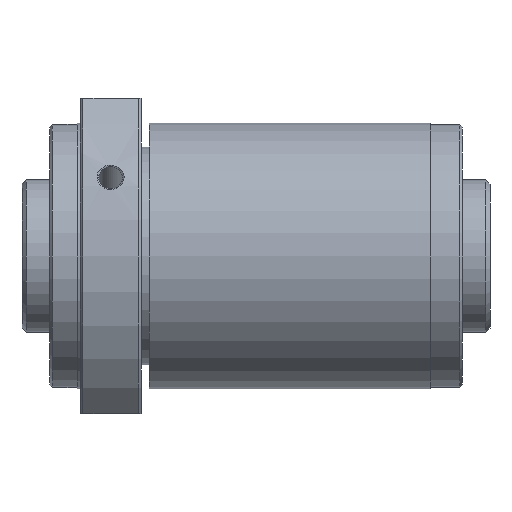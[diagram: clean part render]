
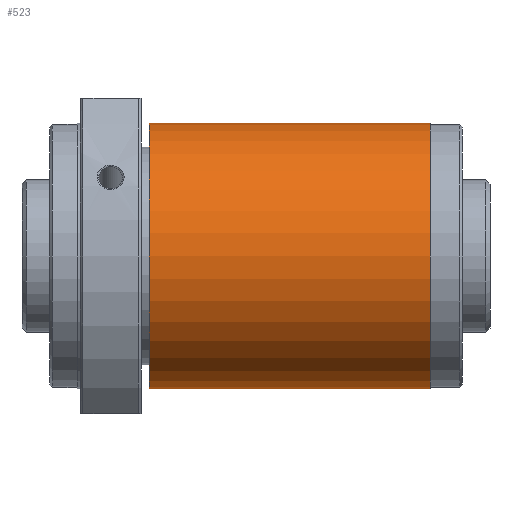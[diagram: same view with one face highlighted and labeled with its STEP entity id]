
A CAD part, front view. The second image highlights one B-rep face of the part: STEP entity #523.
In plain terms, the highlighted cylindrical face has radius 48 mm (diameter 96 mm), a full revolution.
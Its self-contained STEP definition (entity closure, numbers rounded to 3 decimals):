
#61=CYLINDRICAL_SURFACE('',#605,48.);
#121=ORIENTED_EDGE('',*,*,#223,.T.);
#122=ORIENTED_EDGE('',*,*,#222,.F.);
#222=EDGE_CURVE('',#277,#277,#320,.T.);
#223=EDGE_CURVE('',#278,#278,#321,.T.);
#277=VERTEX_POINT('',#910);
#278=VERTEX_POINT('',#913);
#320=CIRCLE('',#604,48.);
#321=CIRCLE('',#606,48.);
#370=EDGE_LOOP('',(#121));
#371=EDGE_LOOP('',(#122));
#446=FACE_BOUND('',#370,.T.);
#447=FACE_BOUND('',#371,.T.);
#523=ADVANCED_FACE('',(#446,#447),#61,.T.);
#604=AXIS2_PLACEMENT_3D('',#909,#723,#724);
#605=AXIS2_PLACEMENT_3D('',#911,#725,#726);
#606=AXIS2_PLACEMENT_3D('',#912,#727,#728);
#723=DIRECTION('',(1.,0.,0.));
#724=DIRECTION('',(0.,0.,-1.));
#725=DIRECTION('',(1.,0.,0.));
#726=DIRECTION('',(0.,0.,-1.));
#727=DIRECTION('',(1.,0.,0.));
#728=DIRECTION('',(0.,0.,-1.));
#909=CARTESIAN_POINT('',(137.4,0.,0.));
#910=CARTESIAN_POINT('',(137.4,0.,-48.));
#911=CARTESIAN_POINT('',(149.,0.,0.));
#912=CARTESIAN_POINT('',(36.,0.,0.));
#913=CARTESIAN_POINT('',(36.,0.,-48.));
